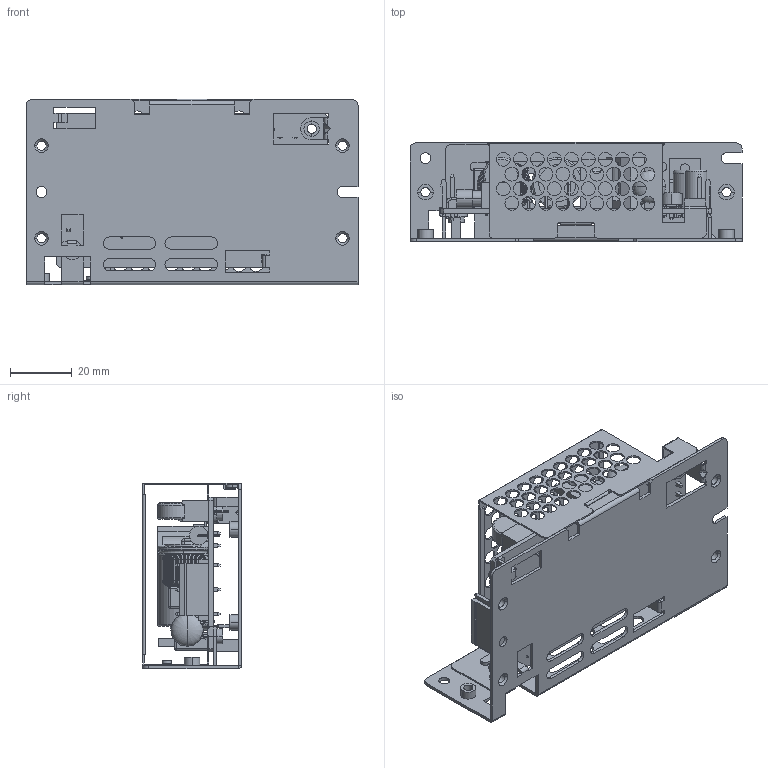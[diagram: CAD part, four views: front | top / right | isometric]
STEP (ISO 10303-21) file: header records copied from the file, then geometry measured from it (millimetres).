
FILE_DESCRIPTION((''),'2;1');
FILE_NAME('JAP_150W_ASM','2013-07-04T',('ERIC.YP.CHEN'),(''),'PRO/ENGINEER BY PARAMETRIC TECHNOLOGY CORPORATION, 2010280','PRO/ENGINEER BY PARAMETRIC TECHNOLOGY CORPORATION, 2010280','');
FILE_SCHEMA(('CONFIG_CONTROL_DESIGN'));
Products named in the file (21): 331609650101_CHASSIS; NEW_COVER; PCB; CON2_BODY; 2PIN_VH; VR1_; LEG1_; VR_LEG__ASM; D101_1; Q1_1; C103; C1; CY1; F1_1; FL1; NTC_HOLDER2; NTC; NONE-118; NONE-1006; L101_ANY_ASM; JAP_150W_ASM
Assembly tree (24 placements, depth 3):
  JAP_150W_ASM
    331609650101_CHASSIS
    NEW_COVER
    PCB
    CON2_BODY
    2PIN_VH
    VR_LEG__ASM
      VR1_
      LEG1_  x3
    D101_1
    Q1_1
    C103
    C1
    CY1  x3
    F1_1
    FL1
    NTC_HOLDER2
    NTC
    L101_ANY_ASM
      NONE-118
      NONE-1006
Bounding box: 107.5 x 32 x 60 mm (x, y, z)
Volume: 38357.1 mm3; surface area: 51041.2 mm2
Topology: 30 solids, 37 shells, 2468 faces, 5578 edges, 3165 vertices
Faces by surface type: cylinder 1078, plane 730, torus 580, bspline 32, revolution 18, cone 16, sphere 14
Entity records: 87541 total; most frequent: CARTESIAN_POINT 35400, DIRECTION 11221, ORIENTED_EDGE 10428, EDGE_CURVE 5218, AXIS2_PLACEMENT_3D 4526, VERTEX_POINT 2977, EDGE_LOOP 2680, FACE_OUTER_BOUND 2308
